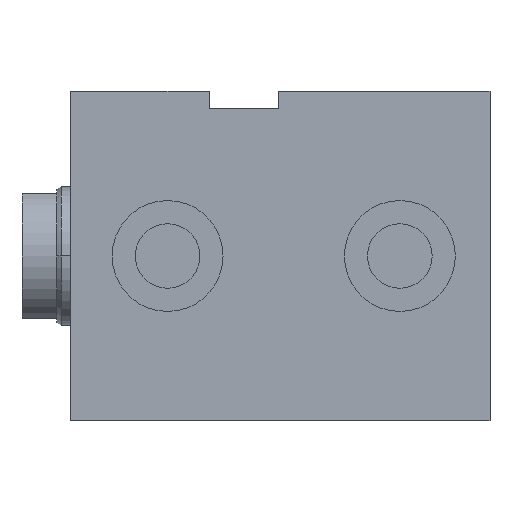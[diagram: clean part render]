
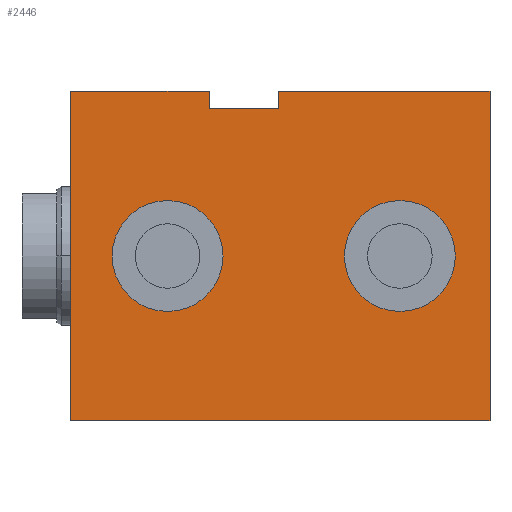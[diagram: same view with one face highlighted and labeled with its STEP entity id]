
A CAD part, left-side view. The second image highlights one B-rep face of the part: STEP entity #2446.
In plain terms, the highlighted planar face has unit normal (-1, 0, 0).
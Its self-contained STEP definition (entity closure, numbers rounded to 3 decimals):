
#36 = VECTOR ( 'NONE', #1953, 1000. ) ;
#53 = FACE_BOUND ( 'NONE', #1004, .T. ) ;
#65 = ORIENTED_EDGE ( 'NONE', *, *, #66, .F. ) ;
#66 = EDGE_CURVE ( 'NONE', #474, #1111, #957, .T. ) ;
#78 = VECTOR ( 'NONE', #2473, 1000. ) ;
#79 = EDGE_CURVE ( 'NONE', #1534, #2032, #2057, .T. ) ;
#96 = EDGE_CURVE ( 'NONE', #1369, #1906, #332, .T. ) ;
#133 = ORIENTED_EDGE ( 'NONE', *, *, #308, .F. ) ;
#140 = VECTOR ( 'NONE', #2763, 1000. ) ;
#212 = VECTOR ( 'NONE', #2807, 1000. ) ;
#213 = VERTEX_POINT ( 'NONE', #641 ) ;
#255 = EDGE_CURVE ( 'NONE', #2032, #2081, #2315, .T. ) ;
#290 = CARTESIAN_POINT ( 'NONE',  ( -62.5, 121., -47.5 ) ) ;
#308 = EDGE_CURVE ( 'NONE', #1906, #1369, #1271, .T. ) ;
#332 = CIRCLE ( 'NONE', #1585, 16. ) ;
#369 = VECTOR ( 'NONE', #1166, 1000. ) ;
#388 = DIRECTION ( 'NONE',  ( 0., 0., 1. ) ) ;
#412 = EDGE_CURVE ( 'NONE', #1082, #2081, #2091, .T. ) ;
#454 = CARTESIAN_POINT ( 'NONE',  ( -62.5, 26., 0. ) ) ;
#464 = DIRECTION ( 'NONE',  ( -1., 0., 0. ) ) ;
#474 = VERTEX_POINT ( 'NONE', #1678 ) ;
#494 = VERTEX_POINT ( 'NONE', #1845 ) ;
#499 = DIRECTION ( 'NONE',  ( 0., 0., 1. ) ) ;
#565 = EDGE_CURVE ( 'NONE', #1082, #1910, #2510, .T. ) ;
#575 = ORIENTED_EDGE ( 'NONE', *, *, #720, .F. ) ;
#624 = DIRECTION ( 'NONE',  ( -1., 0., 0. ) ) ;
#641 = CARTESIAN_POINT ( 'NONE',  ( -62.5, 0., 47.5 ) ) ;
#667 = CARTESIAN_POINT ( 'NONE',  ( -62.5, 93., 0. ) ) ;
#676 = DIRECTION ( 'NONE',  ( 0., 0., -1. ) ) ;
#684 = DIRECTION ( 'NONE',  ( 1., 0., 0. ) ) ;
#685 = ORIENTED_EDGE ( 'NONE', *, *, #2862, .F. ) ;
#704 = CARTESIAN_POINT ( 'NONE',  ( -62.5, 91., -47.5 ) ) ;
#719 = PLANE ( 'NONE',  #1158 ) ;
#720 = EDGE_CURVE ( 'NONE', #1910, #494, #2124, .T. ) ;
#752 = DIRECTION ( 'NONE',  ( 0., 0., 1. ) ) ;
#808 = DIRECTION ( 'NONE',  ( 0., -1., 0. ) ) ;
#832 = LINE ( 'NONE', #2749, #140 ) ;
#904 = ORIENTED_EDGE ( 'NONE', *, *, #1790, .T. ) ;
#931 = EDGE_LOOP ( 'NONE', ( #1877, #133 ) ) ;
#957 = CIRCLE ( 'NONE', #1453, 16. ) ;
#965 = CARTESIAN_POINT ( 'NONE',  ( -62.5, 81., 42.5 ) ) ;
#973 = ORIENTED_EDGE ( 'NONE', *, *, #412, .T. ) ;
#997 = CARTESIAN_POINT ( 'NONE',  ( -62.5, 26., 0. ) ) ;
#1004 = EDGE_LOOP ( 'NONE', ( #685, #65 ) ) ;
#1006 = DIRECTION ( 'NONE',  ( -1., 0., 0. ) ) ;
#1015 = DIRECTION ( 'NONE',  ( 0., 0., 1. ) ) ;
#1047 = ORIENTED_EDGE ( 'NONE', *, *, #1760, .F. ) ;
#1067 = CARTESIAN_POINT ( 'NONE',  ( -62.5, 91., 47.5 ) ) ;
#1082 = VERTEX_POINT ( 'NONE', #965 ) ;
#1111 = VERTEX_POINT ( 'NONE', #1210 ) ;
#1158 = AXIS2_PLACEMENT_3D ( 'NONE', #704, #684, #676 ) ;
#1166 = DIRECTION ( 'NONE',  ( 0., 0., 1. ) ) ;
#1209 = FACE_BOUND ( 'NONE', #931, .T. ) ;
#1210 = CARTESIAN_POINT ( 'NONE',  ( -62.5, 93., 16. ) ) ;
#1214 = CARTESIAN_POINT ( 'NONE',  ( -62.5, 81., 42.5 ) ) ;
#1255 = LINE ( 'NONE', #1977, #36 ) ;
#1271 = CIRCLE ( 'NONE', #2476, 16. ) ;
#1347 = ORIENTED_EDGE ( 'NONE', *, *, #79, .F. ) ;
#1369 = VERTEX_POINT ( 'NONE', #1838 ) ;
#1427 = EDGE_LOOP ( 'NONE', ( #1047, #575, #1527, #973, #2009, #1347, #1461, #904 ) ) ;
#1453 = AXIS2_PLACEMENT_3D ( 'NONE', #667, #624, #388 ) ;
#1461 = ORIENTED_EDGE ( 'NONE', *, *, #2181, .T. ) ;
#1527 = ORIENTED_EDGE ( 'NONE', *, *, #565, .F. ) ;
#1534 = VERTEX_POINT ( 'NONE', #2514 ) ;
#1573 = VECTOR ( 'NONE', #2388, 1000. ) ;
#1585 = AXIS2_PLACEMENT_3D ( 'NONE', #454, #464, #499 ) ;
#1643 = AXIS2_PLACEMENT_3D ( 'NONE', #2877, #2857, #2838 ) ;
#1678 = CARTESIAN_POINT ( 'NONE',  ( -62.5, 93., -16. ) ) ;
#1734 = VECTOR ( 'NONE', #808, 1000. ) ;
#1760 = EDGE_CURVE ( 'NONE', #494, #213, #1950, .T. ) ;
#1790 = EDGE_CURVE ( 'NONE', #1836, #213, #832, .T. ) ;
#1836 = VERTEX_POINT ( 'NONE', #2666 ) ;
#1838 = CARTESIAN_POINT ( 'NONE',  ( -62.5, 26., 16. ) ) ;
#1845 = CARTESIAN_POINT ( 'NONE',  ( -62.5, 61., 47.5 ) ) ;
#1877 = ORIENTED_EDGE ( 'NONE', *, *, #96, .F. ) ;
#1906 = VERTEX_POINT ( 'NONE', #2456 ) ;
#1910 = VERTEX_POINT ( 'NONE', #2500 ) ;
#1931 = CARTESIAN_POINT ( 'NONE',  ( -62.5, 81., 42.5 ) ) ;
#1950 = LINE ( 'NONE', #2830, #212 ) ;
#1953 = DIRECTION ( 'NONE',  ( 0., -1., 0. ) ) ;
#1977 = CARTESIAN_POINT ( 'NONE',  ( -62.5, 91., -47.5 ) ) ;
#2009 = ORIENTED_EDGE ( 'NONE', *, *, #255, .F. ) ;
#2032 = VERTEX_POINT ( 'NONE', #2281 ) ;
#2057 = LINE ( 'NONE', #290, #2629 ) ;
#2081 = VERTEX_POINT ( 'NONE', #2188 ) ;
#2091 = LINE ( 'NONE', #1214, #369 ) ;
#2124 = LINE ( 'NONE', #2354, #1573 ) ;
#2181 = EDGE_CURVE ( 'NONE', #1534, #1836, #1255, .T. ) ;
#2188 = CARTESIAN_POINT ( 'NONE',  ( -62.5, 81., 47.5 ) ) ;
#2281 = CARTESIAN_POINT ( 'NONE',  ( -62.5, 121., 47.5 ) ) ;
#2315 = LINE ( 'NONE', #1067, #1734 ) ;
#2354 = CARTESIAN_POINT ( 'NONE',  ( -62.5, 61., 42.5 ) ) ;
#2388 = DIRECTION ( 'NONE',  ( 0., 0., 1. ) ) ;
#2446 = ADVANCED_FACE ( 'NONE', ( #2898, #1209, #53 ), #719, .F. ) ;
#2456 = CARTESIAN_POINT ( 'NONE',  ( -62.5, 26., -16. ) ) ;
#2473 = DIRECTION ( 'NONE',  ( 0., -1., 0. ) ) ;
#2476 = AXIS2_PLACEMENT_3D ( 'NONE', #997, #1006, #1015 ) ;
#2500 = CARTESIAN_POINT ( 'NONE',  ( -62.5, 61., 42.5 ) ) ;
#2510 = LINE ( 'NONE', #1931, #78 ) ;
#2514 = CARTESIAN_POINT ( 'NONE',  ( -62.5, 121., -47.5 ) ) ;
#2629 = VECTOR ( 'NONE', #752, 1000. ) ;
#2666 = CARTESIAN_POINT ( 'NONE',  ( -62.5, 0., -47.5 ) ) ;
#2749 = CARTESIAN_POINT ( 'NONE',  ( -62.5, 0., -47.5 ) ) ;
#2763 = DIRECTION ( 'NONE',  ( 0., 0., 1. ) ) ;
#2769 = CIRCLE ( 'NONE', #1643, 16. ) ;
#2807 = DIRECTION ( 'NONE',  ( 0., -1., 0. ) ) ;
#2830 = CARTESIAN_POINT ( 'NONE',  ( -62.5, 91., 47.5 ) ) ;
#2838 = DIRECTION ( 'NONE',  ( 0., 0., 1. ) ) ;
#2857 = DIRECTION ( 'NONE',  ( -1., 0., 0. ) ) ;
#2862 = EDGE_CURVE ( 'NONE', #1111, #474, #2769, .T. ) ;
#2877 = CARTESIAN_POINT ( 'NONE',  ( -62.5, 93., 0. ) ) ;
#2898 = FACE_OUTER_BOUND ( 'NONE', #1427, .T. ) ;
